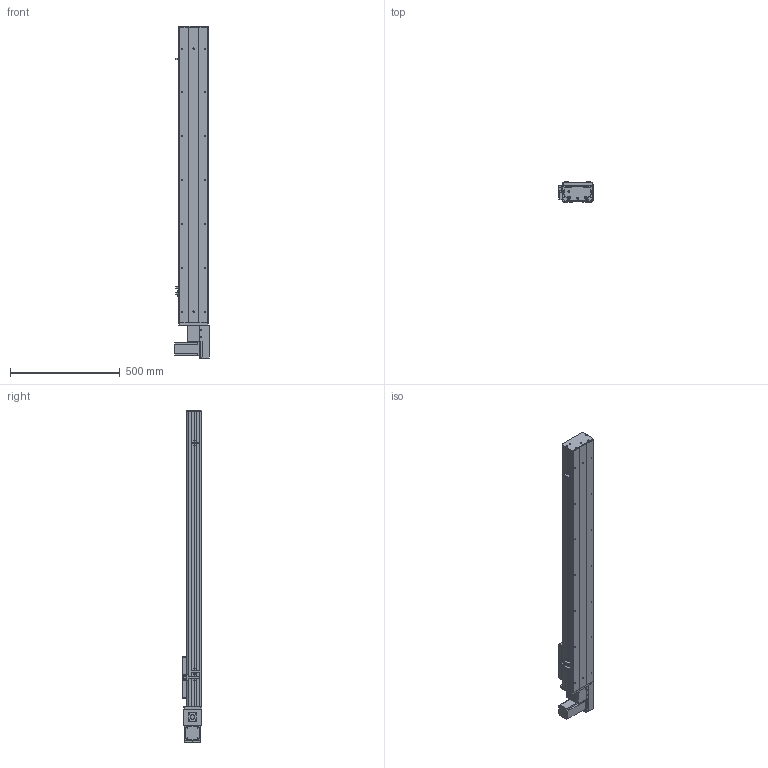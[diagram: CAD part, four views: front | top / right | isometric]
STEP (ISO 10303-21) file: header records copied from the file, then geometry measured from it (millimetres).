
FILE_DESCRIPTION (( 'STEP AP203' ), '1' );
FILE_NAME ('Y135CB-D90-S1050-BL-P400W.STEP', '2020-02-17T09:05:59', ( '微软用户' ), ( '微软中国' ), 'SwSTEP 2.0', 'SolidWorks 2017', '' );
FILE_SCHEMA (( 'CONFIG_CONTROL_DESIGN' ));
Length unit declared in the file: millimetre
Products named in the file (18): san松下电机400不带刹车----; 5CB --掛极耜裔啣-; C-詩湍揤踡え-陔; Y10B--々湍喘謫眊--666; 135CB--詩湍-CE; Y10B-耜蚾蟀諉啣----; Y100-135俋离換覜ん--; Y135CB-耜裔; Y俋欶BR----; Y135C-陔俋离換覜結え-; 135CB---遴掛极.-; 0B-埴倛裔啣; 5C--俋欶; 35CB---喘謫眊楊擘啣; 0B-源倛裔啣; C-雄赽釱--; 0B-萇儂楊擘啣; Y135CB-D90-S1050-BL-P400W
Assembly tree (21 placements, depth 2):
  Y135CB-D90-S1050-BL-P400W
    Y135CB-耜裔
    135CB---遴掛极.-
    35CB---喘謫眊楊擘啣
    Y10B--々湍喘謫眊--666
    Y10B-耜蚾蟀諉啣----
    Y俋欶BR----
    0B-埴倛裔啣
    0B-源倛裔啣
    0B-萇儂楊擘啣
    san松下电机400不带刹车----
    5CB --掛极耜裔啣-  x2
    C-詩湍揤踡え-陔  x2
    135CB--詩湍-CE
    Y100-135俋离換覜ん--  x3
    Y135C-陔俋离換覜結え-
    5C--俋欶
    C-雄赽釱--
Bounding box: 157.5 x 91 x 1514.5 mm (x, y, z)
Volume: 4517204.8 mm3; surface area: 1769425.7 mm2
Topology: 21 solids, 21 shells, 945 faces, 2527 edges, 1674 vertices
Faces by surface type: cylinder 471, plane 458, cone 16
Entity records: 29341 total; most frequent: DIRECTION 4871, CARTESIAN_POINT 4812, ORIENTED_EDGE 4530, EDGE_CURVE 2265, AXIS2_PLACEMENT_3D 1773, VERTEX_POINT 1502, LINE 1325, VECTOR 1325
